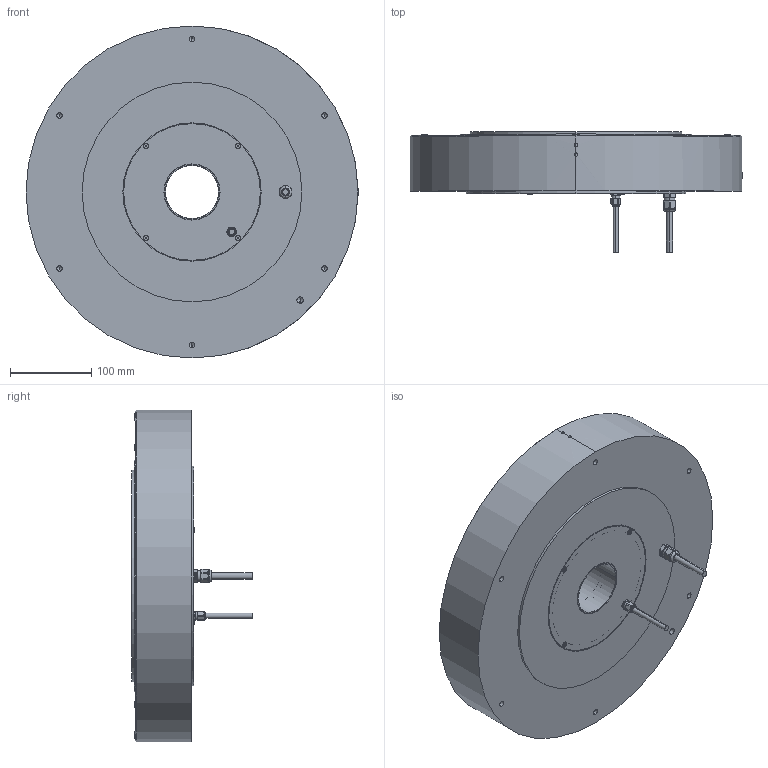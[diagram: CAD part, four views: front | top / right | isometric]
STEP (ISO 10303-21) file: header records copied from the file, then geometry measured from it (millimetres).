
FILE_DESCRIPTION (( 'STEP AP214' ), '1' );
FILE_NAME ('ND400-70-LSPB-UC.step', '2025-03-11T01:11:17', ( '' ), ( '' ), 'SwSTEP 2.0', 'SolidWorks 2024', '' );
FILE_SCHEMA (( 'AUTOMOTIVE_DESIGN' ));
Length unit declared in the file: millimetre
Products named in the file (1): ND400-70-LSPB-UC
Bounding box: 408 x 147.8 x 408 mm (x, y, z)
Volume: 3880323.7 mm3; surface area: 767761.7 mm2
Topology: 31 solids, 31 shells, 1092 faces, 2709 edges, 1680 vertices
Faces by surface type: cylinder 573, plane 222, cone 198, torus 71, sphere 28
Entity records: 34613 total; most frequent: CARTESIAN_POINT 8476, DIRECTION 5596, ORIENTED_EDGE 5210, EDGE_CURVE 2605, AXIS2_PLACEMENT_3D 2298, VERTEX_POINT 1680, EDGE_LOOP 1271, CIRCLE 1205
